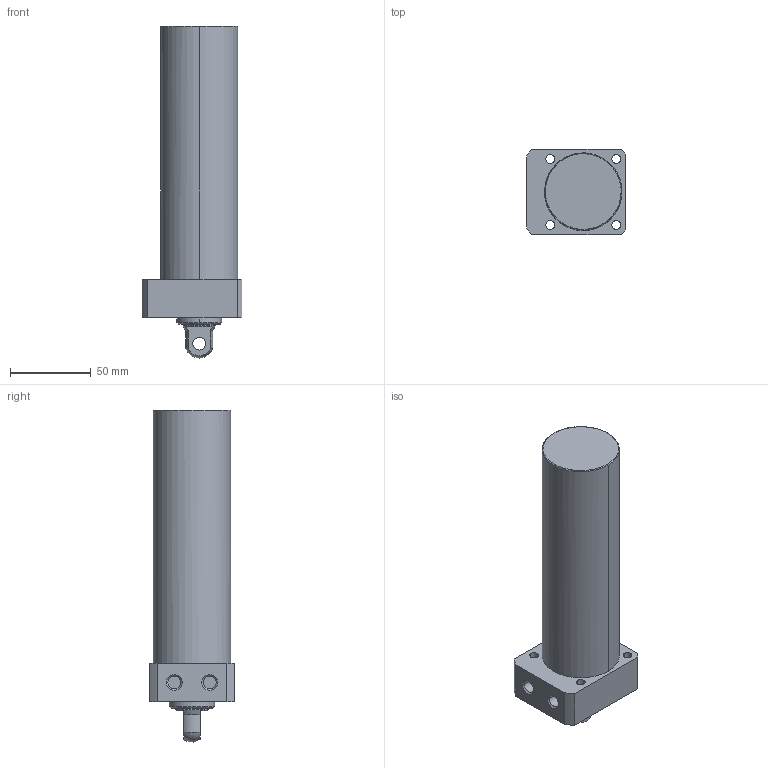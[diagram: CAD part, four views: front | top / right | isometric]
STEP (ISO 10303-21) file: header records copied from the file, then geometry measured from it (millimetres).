
FILE_DESCRIPTION((' '),'2;1');
FILE_NAME( 'TLLR-048CP-130.STEP.stp', '2025-10-24T16:34:41', (' '), ('--- Datakit www.datakit.com---'), ' Datakit CrossCadWare V2024.1 Dec 21 2023', 'Mastercam 2025', ' ');
FILE_SCHEMA(('AUTOMOTIVE_DESIGN { 1 0 10303 214 1 1 1 1 }'));
Length unit declared in the file: millimetre
Products named in the file (1): TLLR-048CP-130
Bounding box: 62 x 53 x 205.94 mm (x, y, z)
Volume: 363588.1 mm3; surface area: 39081.5 mm2
Topology: 1 solids, 1 shells, 57 faces, 164 edges, 116 vertices
Faces by surface type: cylinder 28, plane 18, cone 8, torus 2, sphere 1
Entity records: 2006 total; most frequent: DIRECTION 378, CARTESIAN_POINT 350, ORIENTED_EDGE 328, EDGE_CURVE 164, AXIS2_PLACEMENT_3D 160, VERTEX_POINT 116, CIRCLE 102, EDGE_LOOP 74
